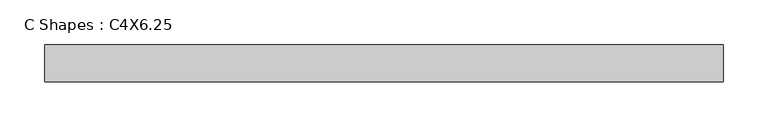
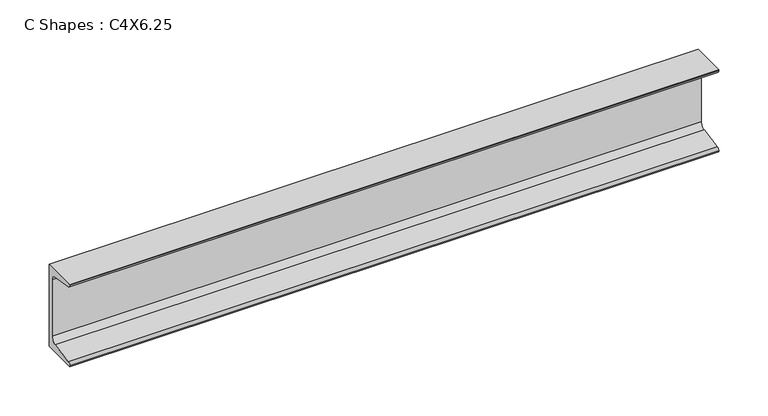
"""IFC4 building model written with IfcOpenShell, lengths in millimetres: beam geometry, C Shapes : C4X6.25."""

from ifc_helpers import new_model, si_unit, point, frame, frame_2d, origin, place, context, project, spatial, polyline, circle_curve, trimmed, segment, composite_curve, outline, extrude, source, transform, mapped, element, save


def c_shapes_c4x6_25_9efe58e5(model_context):
    return source(origin(), model_context, "Body", "SweptSolid", [
        extrude(outline(composite_curve([segment(polyline([(11.049, 50.8), (11.049, -50.8), (-30.861, -50.8), (-30.861, -49.7865772)]), True, "CONTINUOUS"), segment(trimmed(circle_curve(frame_2d((-27.4066, -49.7865772)), 3.4544), [point((-30.861, -49.7865772))], [point((-27.9743618, -46.379155))], False, "CARTESIAN"), True, "CONTINUOUS"), segment(polyline([(-27.9743618, -46.379155), (-0.9980765, -41.8842311)]), True, "CONTINUOUS"), segment(trimmed(circle_curve(frame_2d((-2.1336, -35.0693868)), 6.9088), [point((-0.9980765, -41.8842311))], [point((4.7752, -35.0693868))], True, "CARTESIAN"), True, "CONTINUOUS"), segment(polyline([(4.7752, -35.0693868), (4.7752, 35.0693868)]), True, "CONTINUOUS"), segment(trimmed(circle_curve(frame_2d((-2.1336, 35.0693868)), 6.9088), [point((4.7752, 35.0693868))], [point((-0.9980765, 41.8842311))], True, "CARTESIAN"), True, "CONTINUOUS"), segment(polyline([(-0.9980765, 41.8842311), (-27.9743618, 46.379155)]), True, "CONTINUOUS"), segment(trimmed(circle_curve(frame_2d((-27.4066, 49.7865772)), 3.4544), [point((-27.9743618, 46.379155))], [point((-30.861, 49.7865772))], False, "CARTESIAN"), True, "CONTINUOUS"), segment(polyline([(-30.861, 49.7865772), (-30.861, 50.8), (11.049, 50.8)]), True, "CONTINUOUS")], self_intersect=False)), frame((-406.019, 0.0, 0.0), z_axis=(1.0, 0.0, 0.0), x_axis=(0.0, 1.0, 0.0)), (0.0, 0.0, 1.0), 761.238),
    ])


if __name__ == "__main__":
    model = new_model("IFC4")
    model_context = context("Model", 3, world=origin())
    ifc_project = project(units=[si_unit("LENGTHUNIT", "METRE", prefix="MILLI")], contexts=[model_context])
    site = spatial("IfcSite", under=ifc_project)
    building = spatial("IfcBuilding", under=site)
    placement = place(None, origin())
    c_shapes_c4x6_25_shape = c_shapes_c4x6_25_9efe58e5(model_context)
    element("IfcBeam", 1, ObjectType="C Shapes : C4X6.25", at=placement, inside=building, context=model_context, shape_type="MappedRepresentation", body=[
        mapped(c_shapes_c4x6_25_shape, transform((0.0, 0.0, 0.0), x_axis=(1.0, 0.0, 0.0), y_axis=(0.0, 1.0, 0.0), z_axis=(0.0, 0.0, 1.0))),
    ])
    save(model, "model.ifc")
